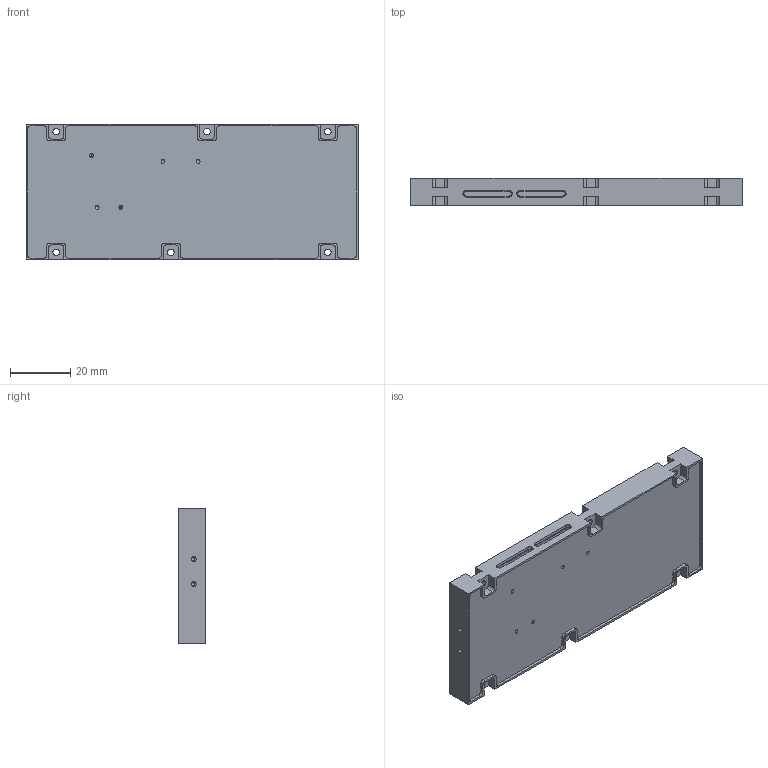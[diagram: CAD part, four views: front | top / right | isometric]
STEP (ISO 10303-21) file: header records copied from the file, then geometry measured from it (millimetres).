
FILE_DESCRIPTION (( 'STEP AP214' ), '1' );
FILE_NAME ('0.1-20GHz狟曹け褲极.STEP', '2026-09-04T07:32:12', ( 'China' ), ( 'Microsoft' ), 'SwSTEP 2.0', 'SolidWorks 2024', '' );
FILE_SCHEMA (( 'AUTOMOTIVE_DESIGN' ));
Length unit declared in the file: millimetre
Products named in the file (1): 0.1-20GHz下变频壳体
Bounding box: 110 x 9 x 45 mm (x, y, z)
Volume: 33896.3 mm3; surface area: 15121.4 mm2
Topology: 1 solids, 1 shells, 564 faces, 1506 edges, 865 vertices
Faces by surface type: cylinder 272, cone 168, plane 124
Entity records: 16487 total; most frequent: DIRECTION 3009, CARTESIAN_POINT 2865, ORIENTED_EDGE 2680, EDGE_CURVE 1340, AXIS2_PLACEMENT_3D 1110, VERTEX_POINT 865, VECTOR 789, LINE 789
